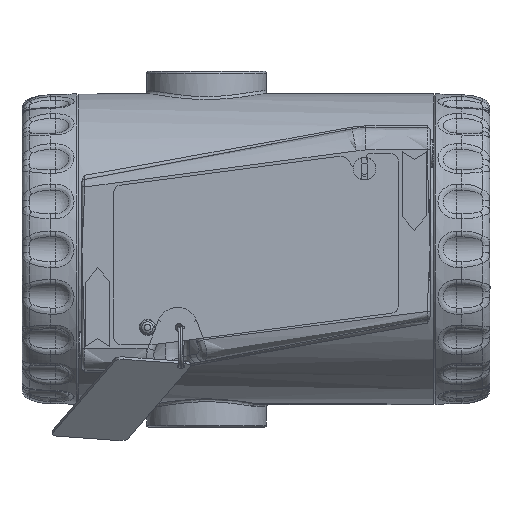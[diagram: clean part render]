
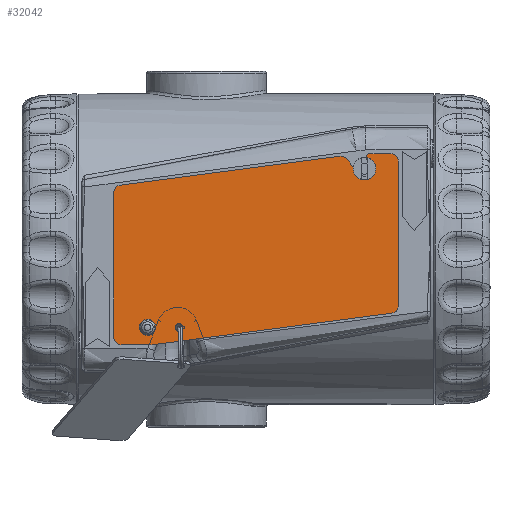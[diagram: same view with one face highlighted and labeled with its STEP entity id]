
A CAD part, left-side view. The second image highlights one B-rep face of the part: STEP entity #32042.
In plain terms, the highlighted planar face has unit normal (-1, 0, 0) as drawn and (0, 0, 1) by its records, which use the part's own axes.
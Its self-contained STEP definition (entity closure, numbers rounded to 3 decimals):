
#2491=FACE_BOUND('',#10461,.T.);
#2492=FACE_BOUND('',#10462,.T.);
#3018=PLANE('',#36155);
#4497=LINE('',#74792,#6017);
#4501=LINE('',#74804,#6021);
#4505=LINE('',#74816,#6025);
#4509=LINE('',#74828,#6029);
#4513=LINE('',#74840,#6033);
#4516=LINE('',#74846,#6036);
#4520=LINE('',#74858,#6040);
#4524=LINE('',#74869,#6044);
#6017=VECTOR('',#44802,10.);
#6021=VECTOR('',#44814,10.);
#6025=VECTOR('',#44826,10.);
#6029=VECTOR('',#44838,10.);
#6033=VECTOR('',#44850,10.);
#6036=VECTOR('',#44855,10.);
#6040=VECTOR('',#44867,10.);
#6044=VECTOR('',#44879,10.);
#8419=FACE_OUTER_BOUND('',#10460,.T.);
#10460=EDGE_LOOP('',(#29668,#29669,#29670,#29671,#29672,#29673,#29674,#29675,
#29676,#29677,#29678,#29679,#29680,#29681,#29682));
#10461=EDGE_LOOP('',(#29683));
#10462=EDGE_LOOP('',(#29684));
#12528=CIRCLE('',#36121,1.35);
#12530=CIRCLE('',#36124,1.);
#12531=CIRCLE('',#36126,2.);
#12533=CIRCLE('',#36130,2.);
#12535=CIRCLE('',#36134,1.);
#12537=CIRCLE('',#36138,2.);
#12539=CIRCLE('',#36142,2.);
#12541=CIRCLE('',#36147,2.);
#12543=CIRCLE('',#36151,2.);
#15444=VERTEX_POINT('',#74772);
#15446=VERTEX_POINT('',#74778);
#15447=VERTEX_POINT('',#74782);
#15448=VERTEX_POINT('',#74783);
#15451=VERTEX_POINT('',#74791);
#15453=VERTEX_POINT('',#74797);
#15455=VERTEX_POINT('',#74803);
#15457=VERTEX_POINT('',#74809);
#15459=VERTEX_POINT('',#74815);
#15461=VERTEX_POINT('',#74821);
#15463=VERTEX_POINT('',#74827);
#15465=VERTEX_POINT('',#74833);
#15467=VERTEX_POINT('',#74839);
#15469=VERTEX_POINT('',#74845);
#15471=VERTEX_POINT('',#74851);
#15473=VERTEX_POINT('',#74857);
#15475=VERTEX_POINT('',#74863);
#20176=EDGE_CURVE('',#15444,#15444,#12528,.T.);
#20179=EDGE_CURVE('',#15446,#15446,#12530,.T.);
#20180=EDGE_CURVE('',#15447,#15448,#12531,.T.);
#20184=EDGE_CURVE('',#15448,#15451,#4497,.T.);
#20187=EDGE_CURVE('',#15451,#15453,#12533,.T.);
#20190=EDGE_CURVE('',#15453,#15455,#4501,.T.);
#20193=EDGE_CURVE('',#15455,#15457,#12535,.T.);
#20196=EDGE_CURVE('',#15457,#15459,#4505,.T.);
#20199=EDGE_CURVE('',#15459,#15461,#12537,.T.);
#20202=EDGE_CURVE('',#15461,#15463,#4509,.T.);
#20205=EDGE_CURVE('',#15463,#15465,#12539,.T.);
#20208=EDGE_CURVE('',#15465,#15467,#4513,.T.);
#20211=EDGE_CURVE('',#15467,#15469,#4516,.T.);
#20214=EDGE_CURVE('',#15469,#15471,#12541,.T.);
#20217=EDGE_CURVE('',#15471,#15473,#4520,.T.);
#20220=EDGE_CURVE('',#15473,#15475,#12543,.T.);
#20223=EDGE_CURVE('',#15475,#15447,#4524,.T.);
#29668=ORIENTED_EDGE('',*,*,#20180,.F.);
#29669=ORIENTED_EDGE('',*,*,#20223,.F.);
#29670=ORIENTED_EDGE('',*,*,#20220,.F.);
#29671=ORIENTED_EDGE('',*,*,#20217,.F.);
#29672=ORIENTED_EDGE('',*,*,#20214,.F.);
#29673=ORIENTED_EDGE('',*,*,#20211,.F.);
#29674=ORIENTED_EDGE('',*,*,#20208,.F.);
#29675=ORIENTED_EDGE('',*,*,#20205,.F.);
#29676=ORIENTED_EDGE('',*,*,#20202,.F.);
#29677=ORIENTED_EDGE('',*,*,#20199,.F.);
#29678=ORIENTED_EDGE('',*,*,#20196,.F.);
#29679=ORIENTED_EDGE('',*,*,#20193,.F.);
#29680=ORIENTED_EDGE('',*,*,#20190,.F.);
#29681=ORIENTED_EDGE('',*,*,#20187,.F.);
#29682=ORIENTED_EDGE('',*,*,#20184,.F.);
#29683=ORIENTED_EDGE('',*,*,#20176,.T.);
#29684=ORIENTED_EDGE('',*,*,#20179,.T.);
#32042=ADVANCED_FACE('',(#8419,#2491,#2492),#3018,.T.);
#36121=AXIS2_PLACEMENT_3D('',#74774,#44783,#44784);
#36124=AXIS2_PLACEMENT_3D('',#74780,#44790,#44791);
#36126=AXIS2_PLACEMENT_3D('',#74784,#44794,#44795);
#36130=AXIS2_PLACEMENT_3D('',#74798,#44807,#44808);
#36134=AXIS2_PLACEMENT_3D('',#74810,#44819,#44820);
#36138=AXIS2_PLACEMENT_3D('',#74822,#44831,#44832);
#36142=AXIS2_PLACEMENT_3D('',#74834,#44843,#44844);
#36147=AXIS2_PLACEMENT_3D('',#74852,#44860,#44861);
#36151=AXIS2_PLACEMENT_3D('',#74864,#44872,#44873);
#36155=AXIS2_PLACEMENT_3D('',#74872,#44883,#44884);
#44783=DIRECTION('center_axis',(0.,0.,-1.));
#44784=DIRECTION('ref_axis',(-1.,0.,0.));
#44790=DIRECTION('center_axis',(0.,0.,-1.));
#44791=DIRECTION('ref_axis',(-1.,0.,0.));
#44794=DIRECTION('center_axis',(0.,0.,-1.));
#44795=DIRECTION('ref_axis',(0.766,0.643,0.));
#44802=DIRECTION('',(0.643,-0.766,0.));
#44807=DIRECTION('center_axis',(0.,0.,1.));
#44808=DIRECTION('ref_axis',(0.766,0.643,0.));
#44814=DIRECTION('',(-0.643,0.766,0.));
#44819=DIRECTION('center_axis',(0.,0.,-1.));
#44820=DIRECTION('ref_axis',(0.,1.,0.));
#44826=DIRECTION('',(1.,0.,0.));
#44831=DIRECTION('center_axis',(0.,0.,-1.));
#44832=DIRECTION('ref_axis',(1.,0.,0.));
#44838=DIRECTION('',(0.,-1.,0.));
#44843=DIRECTION('center_axis',(0.,0.,-1.));
#44844=DIRECTION('ref_axis',(0.131,-0.991,0.));
#44850=DIRECTION('',(-0.991,-0.131,0.));
#44855=DIRECTION('',(-1.,0.,0.));
#44860=DIRECTION('center_axis',(0.,0.,-1.));
#44861=DIRECTION('ref_axis',(-1.,0.,0.));
#44867=DIRECTION('',(0.,1.,0.));
#44872=DIRECTION('center_axis',(0.,0.,-1.));
#44873=DIRECTION('ref_axis',(-0.131,0.991,0.));
#44879=DIRECTION('',(0.991,0.131,0.));
#44883=DIRECTION('center_axis',(0.,0.,1.));
#44884=DIRECTION('ref_axis',(1.,0.,0.));
#74772=CARTESIAN_POINT('',(10.35,4.599,0.7));
#74774=CARTESIAN_POINT('Origin',(9.,4.599,0.7));
#74778=CARTESIAN_POINT('',(18.4,4.599,0.7));
#74780=CARTESIAN_POINT('Origin',(17.4,4.599,0.7));
#74782=CARTESIAN_POINT('',(60.389,50.327,0.7));
#74783=CARTESIAN_POINT('',(62.182,49.63,0.7));
#74784=CARTESIAN_POINT('Origin',(60.65,48.344,0.7));
#74791=CARTESIAN_POINT('',(65.468,45.714,0.7));
#74792=CARTESIAN_POINT('',(65.468,45.714,0.7));
#74797=CARTESIAN_POINT('',(68.532,48.286,0.7));
#74798=CARTESIAN_POINT('Origin',(67.,47.,0.7));
#74803=CARTESIAN_POINT('',(67.633,49.357,0.7));
#74804=CARTESIAN_POINT('',(67.633,49.357,0.7));
#74809=CARTESIAN_POINT('',(68.399,51.,0.7));
#74810=CARTESIAN_POINT('Origin',(68.399,50.,0.7));
#74815=CARTESIAN_POINT('',(74.,51.,0.7));
#74816=CARTESIAN_POINT('',(74.,51.,0.7));
#74821=CARTESIAN_POINT('',(76.,49.,0.7));
#74822=CARTESIAN_POINT('Origin',(74.,49.,0.7));
#74827=CARTESIAN_POINT('',(76.,10.377,0.7));
#74828=CARTESIAN_POINT('',(76.,10.377,0.7));
#74833=CARTESIAN_POINT('',(74.261,8.394,0.7));
#74834=CARTESIAN_POINT('Origin',(74.,10.377,0.7));
#74839=CARTESIAN_POINT('',(10.5,0.,0.7));
#74840=CARTESIAN_POINT('',(10.5,0.,0.7));
#74845=CARTESIAN_POINT('',(2.,0.,0.7));
#74846=CARTESIAN_POINT('',(2.,0.,0.7));
#74851=CARTESIAN_POINT('',(0.,2.,0.7));
#74852=CARTESIAN_POINT('Origin',(2.,2.,0.7));
#74857=CARTESIAN_POINT('',(0.,40.623,0.7));
#74858=CARTESIAN_POINT('',(0.,40.623,0.7));
#74863=CARTESIAN_POINT('',(1.739,42.606,0.7));
#74864=CARTESIAN_POINT('Origin',(2.,40.623,0.7));
#74869=CARTESIAN_POINT('',(60.389,50.327,0.7));
#74872=CARTESIAN_POINT('Origin',(39.077,26.228,0.7));
